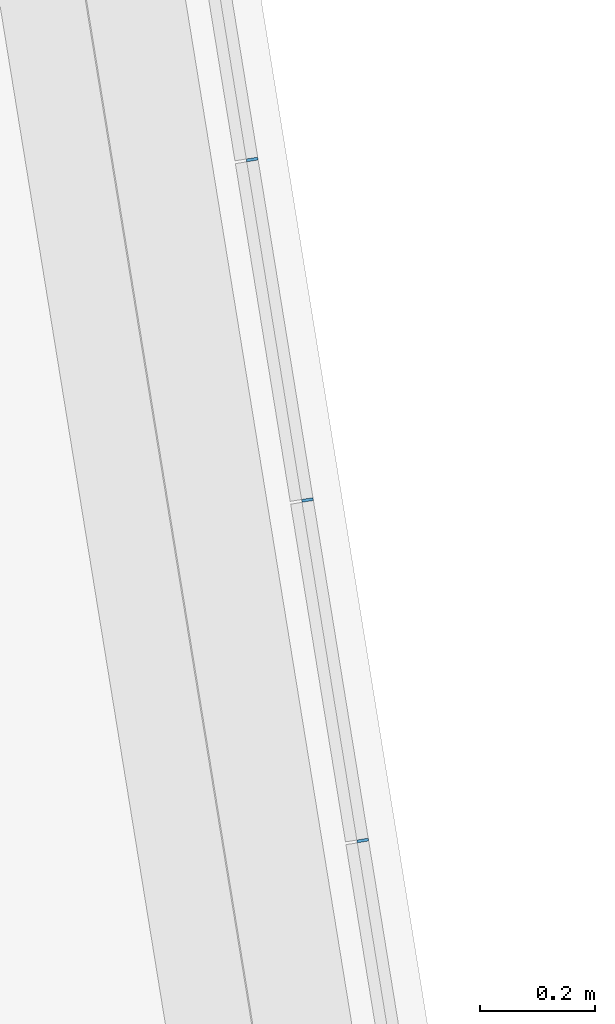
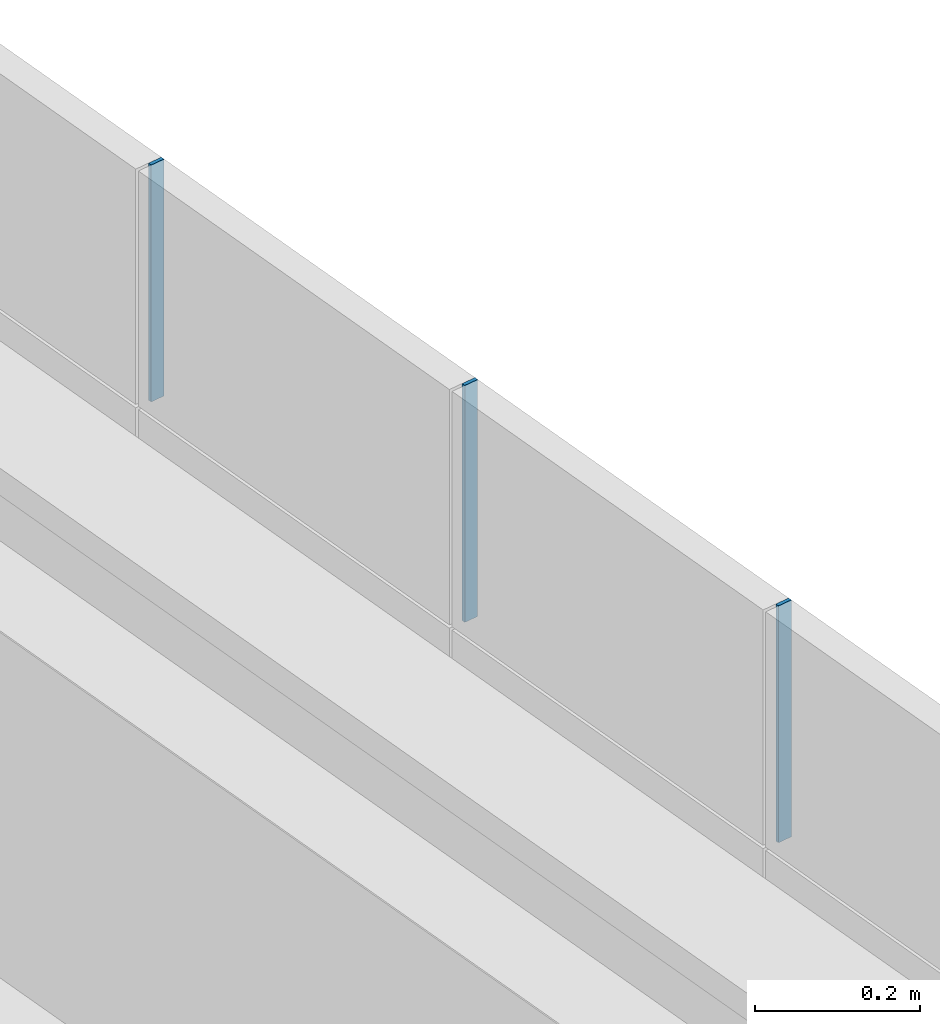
# One storey, part 23 of 38: 3 members, 1 element without a shape of its own.
"""IFC2X3 building model written with IfcOpenShell, lengths in millimetres."""

from ifc_helpers import new_model, entity, si_unit, converted_unit, derived_unit, direction, frame, origin, origin_with_axes, place, context, subcontext, project, spatial, faceted_brep, material, type_object, element, aggregate, save


model = new_model("IFC2X3")

# Units and contexts
model_context = context("Model", 3, precision=0.01, world=origin(), true_north=direction((6.12323399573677e-17, 1.0)))
plan_context = context("Plan", 3, precision=1e-05, world=origin_with_axes())
body_context = subcontext(model_context, "Body", "Model", "MODEL_VIEW")
ifc_project = project(units=[converted_unit("PLANEANGLEUNIT", "DEGREE", entity("IfcPositiveLengthMeasure", 0.0174532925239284), si_unit("PLANEANGLEUNIT", "RADIAN"), dimensions=[0, 0, 0, 0, 0, 0, 0]), si_unit("AREAUNIT", "SQUARE_METRE"), si_unit("LENGTHUNIT", "METRE", prefix="MILLI"), si_unit("MASSUNIT", "GRAM", prefix="KILO"), si_unit("POWERUNIT", "WATT"), si_unit("PRESSUREUNIT", "PASCAL", prefix="KILO"), si_unit("FORCEUNIT", "NEWTON", prefix="KILO"), si_unit("ELECTRICVOLTAGEUNIT", "VOLT"), si_unit("ELECTRICCURRENTUNIT", "AMPERE"), si_unit("THERMODYNAMICTEMPERATUREUNIT", "DEGREE_CELSIUS"), si_unit("TIMEUNIT", "SECOND"), si_unit("VOLUMEUNIT", "CUBIC_METRE"), derived_unit("LINEARVELOCITYUNIT", [(si_unit("LENGTHUNIT", "METRE"), 1), (si_unit("TIMEUNIT", "SECOND"), -1)]), derived_unit("VOLUMETRICFLOWRATEUNIT", [(si_unit("VOLUMEUNIT", "CUBIC_METRE"), 1), (si_unit("TIMEUNIT", "SECOND"), -1)]), derived_unit("THERMALTRANSMITTANCEUNIT", [(si_unit("POWERUNIT", "WATT"), 1), (si_unit("THERMODYNAMICTEMPERATUREUNIT", "KELVIN"), -1), (si_unit("AREAUNIT", "SQUARE_METRE"), -1)]), derived_unit("SOUNDPRESSUREUNIT", [(si_unit("PRESSUREUNIT", "PASCAL"), 1)])], contexts=[model_context, plan_context])

# Site, building, storey
site_placement = place(None, frame((-0.00071070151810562, 0.00438415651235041, 0.0), z_axis=(0.0, 0.0, 1.0), x_axis=(-0.160236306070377, 0.987078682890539, 0.0)))
site = spatial("IfcSite", under=ifc_project, at=site_placement, Name="Default", CompositionType="ELEMENT")
building_placement = place(site_placement, origin_with_axes())
building = spatial("IfcBuilding", under=site, at=building_placement, Name="TOO", CompositionType="ELEMENT")
storey_placement = place(building_placement, frame((0.0, 0.0, 50999.9999999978), z_axis=(0.0, 0.0, 1.0), x_axis=(1.0, 0.0, 0.0)))
storey = spatial("IfcBuildingStorey", under=building, at=storey_placement, Name="Nivå D-H01", CompositionType="ELEMENT", Elevation=50999.9999999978)

# Curtain wall, members
curtain_wall_type = type_object("IfcCurtainWallType", Name="Curtain Wall:Curtain Wall Standard (Bruk kun denne)", PredefinedType="NOTDEFINED")
curtain_wall_placement = place(storey_placement, frame((0.0, 0.0, -50999.9999999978), z_axis=(0.0, 0.0, 1.0), x_axis=(1.0, 0.0, 0.0)))
curtain_wall = element("IfcCurtainWall", 1, at=curtain_wall_placement, inside=storey, type_object=curtain_wall_type, Name="Curtain Wall:Curtain Wall Standard (Bruk kun denne)", ObjectType="Curtain Wall:Curtain Wall Standard (Bruk kun denne)")
ifc_material = material(Name="Rubber")
member_type = type_object("IfcMemberType", Name="Rectangular Mullion:A246 - Fuge 5mm L09", PredefinedType="MULLION", material=ifc_material)
member_1_placement = place(curtain_wall_placement, frame((773577.619644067, -604232.480498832, 54850.0), z_axis=(0.0, 0.0, -1.0), x_axis=(-1.0, 0.0, 0.0)))
member_1 = element("IfcMember", 2, at=member_1_placement, type_object=member_type, Name="Rectangular Mullion:A246 - Fuge 5mm L09", ObjectType="Rectangular Mullion:A246 - Fuge 5mm L09", context=body_context, shape_type="Brep", body=[
    faceted_brep([(2.5, 20.0, -349.999999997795), (2.5, -1.77635683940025e-15, -349.999999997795), (2.5, -1.77635683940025e-15, 2.20916263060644e-09), (2.5, 20.0, 2.20916263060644e-09), (-2.5, 20.0, -349.999999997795), (-2.5, 20.0, 2.20916263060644e-09), (-2.5, -1.77635683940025e-15, -349.999999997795), (-2.5, -1.77635683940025e-15, 2.20916263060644e-09)], [[[0, 1, 2, 3]], [[4, 0, 3, 5]], [[6, 4, 5, 7]], [[1, 6, 7, 2]], [[3, 2, 7, 5]], [[4, 6, 1, 0]]], orient=[[False], [False], [False], [False], [False], [False]]),
])
member_2_placement = place(curtain_wall_placement, frame((772977.619644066, -604232.480498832, 54850.0), z_axis=(0.0, 0.0, -1.0), x_axis=(-1.0, 0.0, 0.0)))
member_2 = element("IfcMember", 3, at=member_2_placement, type_object=member_type, Name="Rectangular Mullion:A246 - Fuge 5mm L09", ObjectType="Rectangular Mullion:A246 - Fuge 5mm L09", context=body_context, shape_type="Brep", body=[
    faceted_brep([(2.5, 20.0, -349.999999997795), (2.5, -1.77635683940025e-15, -349.999999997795), (2.5, -1.77635683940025e-15, 2.20916263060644e-09), (2.5, 20.0, 2.20916263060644e-09), (-2.5, 20.0, -349.999999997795), (-2.5, 20.0, 2.20916263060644e-09), (-2.5, -1.77635683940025e-15, -349.999999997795), (-2.5, -1.77635683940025e-15, 2.20916263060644e-09)], [[[0, 1, 2, 3]], [[4, 0, 3, 5]], [[6, 4, 5, 7]], [[1, 6, 7, 2]], [[3, 2, 7, 5]], [[4, 6, 1, 0]]], orient=[[False], [False], [False], [False], [False], [False]]),
])
member_3_placement = place(curtain_wall_placement, frame((772377.619644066, -604232.480498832, 54850.0), z_axis=(0.0, 0.0, -1.0), x_axis=(-1.0, 0.0, 0.0)))
member_3 = element("IfcMember", 4, at=member_3_placement, type_object=member_type, Name="Rectangular Mullion:A246 - Fuge 5mm L09", ObjectType="Rectangular Mullion:A246 - Fuge 5mm L09", context=body_context, shape_type="Brep", body=[
    faceted_brep([(2.5, 20.0, -349.999999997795), (2.5, -1.77635683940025e-15, -349.999999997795), (2.5, -1.77635683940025e-15, 2.20916263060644e-09), (2.5, 20.0, 2.20916263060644e-09), (-2.5, 20.0, -349.999999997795), (-2.5, 20.0, 2.20916263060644e-09), (-2.5, -1.77635683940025e-15, -349.999999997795), (-2.5, -1.77635683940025e-15, 2.20916263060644e-09)], [[[0, 1, 2, 3]], [[4, 0, 3, 5]], [[6, 4, 5, 7]], [[1, 6, 7, 2]], [[3, 2, 7, 5]], [[4, 6, 1, 0]]], orient=[[False], [False], [False], [False], [False], [False]]),
])
aggregate(curtain_wall, [member_1, member_2, member_3])

save(model, "model.ifc")
